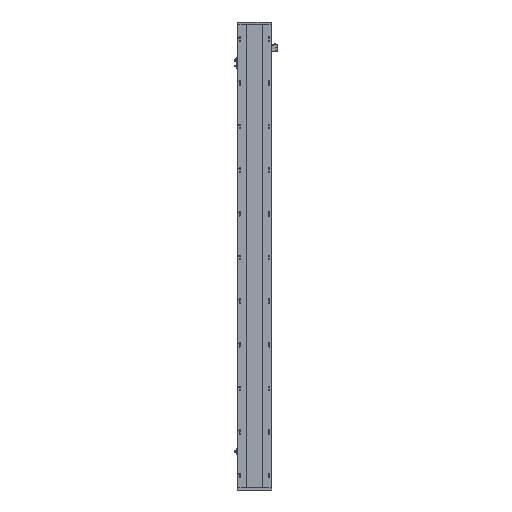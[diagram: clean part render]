
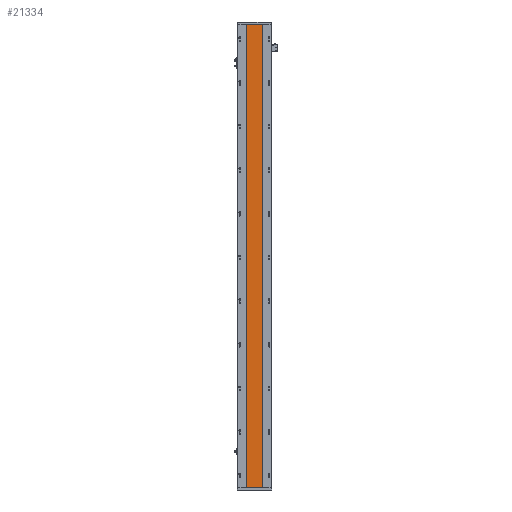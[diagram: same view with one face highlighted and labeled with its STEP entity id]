
A CAD part, front view. The second image highlights one B-rep face of the part: STEP entity #21334.
In plain terms, the highlighted planar face has unit normal (0, -1, 0).
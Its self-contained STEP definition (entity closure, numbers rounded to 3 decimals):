
#27 = DIRECTION ( 'NONE',  ( 0., 0., -1. ) ) ;
#971 = CARTESIAN_POINT ( 'NONE',  ( 205.288, 16.9, 2296. ) ) ;
#2399 = CARTESIAN_POINT ( 'NONE',  ( 129.288, 16.9, 2296. ) ) ;
#3553 = VECTOR ( 'NONE', #27, 1000. ) ;
#3836 = CARTESIAN_POINT ( 'NONE',  ( 205.288, 16.9, 0. ) ) ;
#4591 = LINE ( 'NONE', #9336, #3553 ) ;
#4629 = EDGE_CURVE ( 'NONE', #31233, #24110, #27105, .T. ) ;
#6060 = VERTEX_POINT ( 'NONE', #32217 ) ;
#7056 = AXIS2_PLACEMENT_3D ( 'NONE', #40342, #21121, #40616 ) ;
#8355 = VECTOR ( 'NONE', #19297, 1000. ) ;
#9336 = CARTESIAN_POINT ( 'NONE',  ( 129.288, 16.9, 2296. ) ) ;
#10311 = CARTESIAN_POINT ( 'NONE',  ( 129.288, 16.9, 0. ) ) ;
#10333 = ORIENTED_EDGE ( 'NONE', *, *, #25814, .T. ) ;
#12762 = EDGE_LOOP ( 'NONE', ( #25066, #19252, #26849, #10333 ) ) ;
#13944 = VECTOR ( 'NONE', #19623, 1000. ) ;
#14259 = VERTEX_POINT ( 'NONE', #971 ) ;
#14518 = LINE ( 'NONE', #2399, #20569 ) ;
#18752 = FACE_OUTER_BOUND ( 'NONE', #12762, .T. ) ;
#19252 = ORIENTED_EDGE ( 'NONE', *, *, #27640, .F. ) ;
#19297 = DIRECTION ( 'NONE',  ( 0., 0., -1. ) ) ;
#19623 = DIRECTION ( 'NONE',  ( 1., 0., 0. ) ) ;
#20569 = VECTOR ( 'NONE', #28591, 1000. ) ;
#21121 = DIRECTION ( 'NONE',  ( 0., 1., 0. ) ) ;
#21334 = ADVANCED_FACE ( 'NONE', ( #18752 ), #37097, .F. ) ;
#24110 = VERTEX_POINT ( 'NONE', #37259 ) ;
#24246 = EDGE_CURVE ( 'NONE', #6060, #14259, #14518, .T. ) ;
#25066 = ORIENTED_EDGE ( 'NONE', *, *, #4629, .T. ) ;
#25360 = CARTESIAN_POINT ( 'NONE',  ( 205.288, 16.9, 2296. ) ) ;
#25814 = EDGE_CURVE ( 'NONE', #6060, #31233, #4591, .T. ) ;
#26849 = ORIENTED_EDGE ( 'NONE', *, *, #24246, .F. ) ;
#27105 = LINE ( 'NONE', #3836, #13944 ) ;
#27640 = EDGE_CURVE ( 'NONE', #14259, #24110, #30965, .T. ) ;
#28591 = DIRECTION ( 'NONE',  ( 1., 0., 0. ) ) ;
#30965 = LINE ( 'NONE', #25360, #8355 ) ;
#31233 = VERTEX_POINT ( 'NONE', #10311 ) ;
#32217 = CARTESIAN_POINT ( 'NONE',  ( 129.288, 16.9, 2296. ) ) ;
#37097 = PLANE ( 'NONE',  #7056 ) ;
#37259 = CARTESIAN_POINT ( 'NONE',  ( 205.288, 16.9, 0. ) ) ;
#40342 = CARTESIAN_POINT ( 'NONE',  ( 205.288, 16.9, 2296. ) ) ;
#40616 = DIRECTION ( 'NONE',  ( -1., 0., 0. ) ) ;
